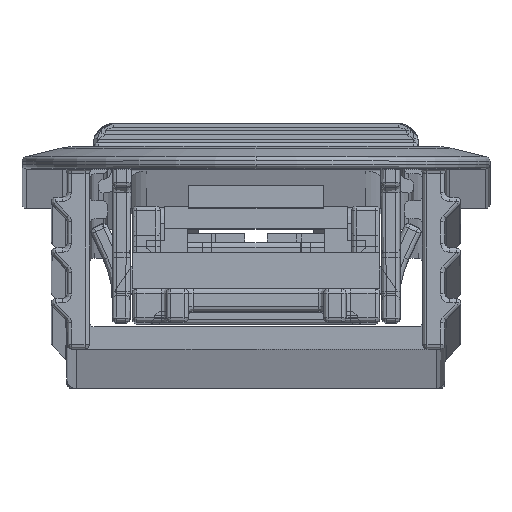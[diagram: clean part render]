
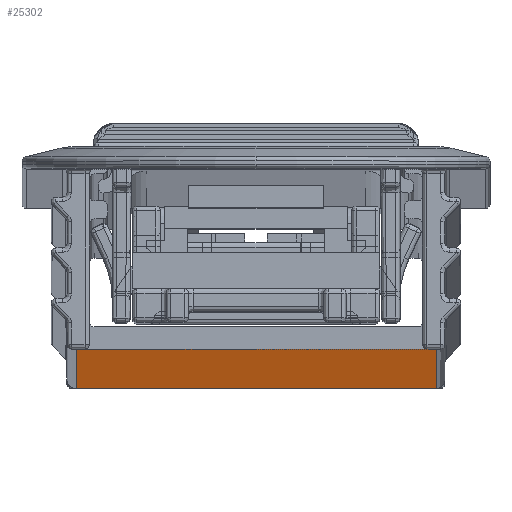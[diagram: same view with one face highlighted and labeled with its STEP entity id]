
A CAD part, top view. The second image highlights one B-rep face of the part: STEP entity #25302.
In plain terms, the highlighted planar face has unit normal (0, -1, 0).
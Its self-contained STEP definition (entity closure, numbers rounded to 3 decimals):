
#2828 = DIRECTION ( 'NONE',  ( 0., 1., 0. ) ) ;
#2987 = VECTOR ( 'NONE', #27016, 1000. ) ;
#3052 = LINE ( 'NONE', #7701, #29979 ) ;
#3195 = ORIENTED_EDGE ( 'NONE', *, *, #14335, .F. ) ;
#3868 = VERTEX_POINT ( 'NONE', #28642 ) ;
#5005 = CARTESIAN_POINT ( 'NONE',  ( -8.4, 0., 500. ) ) ;
#6130 = EDGE_CURVE ( 'NONE', #19521, #17841, #19405, .T. ) ;
#7701 = CARTESIAN_POINT ( 'NONE',  ( -8.4, 0., 500. ) ) ;
#9525 = ORIENTED_EDGE ( 'NONE', *, *, #6130, .T. ) ;
#9774 = CARTESIAN_POINT ( 'NONE',  ( -8.4, 0., -500. ) ) ;
#10684 = DIRECTION ( 'NONE',  ( 1., 0., 0. ) ) ;
#10908 = CARTESIAN_POINT ( 'NONE',  ( -8., 0., -500. ) ) ;
#13479 = EDGE_CURVE ( 'NONE', #13576, #19521, #22555, .T. ) ;
#13576 = VERTEX_POINT ( 'NONE', #10908 ) ;
#14335 = EDGE_CURVE ( 'NONE', #3868, #17841, #3052, .T. ) ;
#16353 = LINE ( 'NONE', #21828, #2987 ) ;
#16426 = EDGE_LOOP ( 'NONE', ( #3195, #16581, #18547, #9525 ) ) ;
#16581 = ORIENTED_EDGE ( 'NONE', *, *, #32074, .T. ) ;
#17732 = DIRECTION ( 'NONE',  ( 1., 0., 0. ) ) ;
#17841 = VERTEX_POINT ( 'NONE', #21547 ) ;
#18547 = ORIENTED_EDGE ( 'NONE', *, *, #13479, .T. ) ;
#19260 = VECTOR ( 'NONE', #17732, 1000. ) ;
#19405 = LINE ( 'NONE', #20081, #21336 ) ;
#19521 = VERTEX_POINT ( 'NONE', #22723 ) ;
#20081 = CARTESIAN_POINT ( 'NONE',  ( 8., 0., 500. ) ) ;
#21336 = VECTOR ( 'NONE', #32773, 1000. ) ;
#21547 = CARTESIAN_POINT ( 'NONE',  ( 8., 0., 500. ) ) ;
#21828 = CARTESIAN_POINT ( 'NONE',  ( -8., 0., 500. ) ) ;
#22555 = LINE ( 'NONE', #9774, #19260 ) ;
#22723 = CARTESIAN_POINT ( 'NONE',  ( 8., 0., -500. ) ) ;
#25302 = ADVANCED_FACE ( 'NONE', ( #28104 ), #27787, .F. ) ;
#25933 = DIRECTION ( 'NONE',  ( 0., 0., 1. ) ) ;
#27016 = DIRECTION ( 'NONE',  ( 0., 0., -1. ) ) ;
#27787 = PLANE ( 'NONE',  #28060 ) ;
#28060 = AXIS2_PLACEMENT_3D ( 'NONE', #5005, #2828, #25933 ) ;
#28104 = FACE_OUTER_BOUND ( 'NONE', #16426, .T. ) ;
#28642 = CARTESIAN_POINT ( 'NONE',  ( -8., 0., 500. ) ) ;
#29979 = VECTOR ( 'NONE', #10684, 1000. ) ;
#32074 = EDGE_CURVE ( 'NONE', #3868, #13576, #16353, .T. ) ;
#32773 = DIRECTION ( 'NONE',  ( 0., 0., 1. ) ) ;
